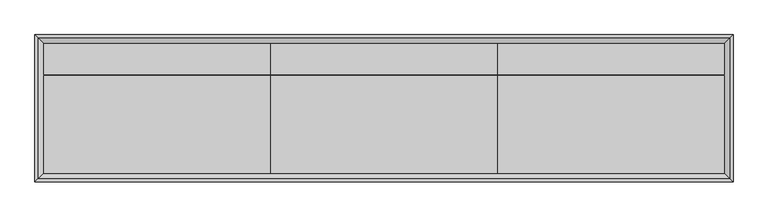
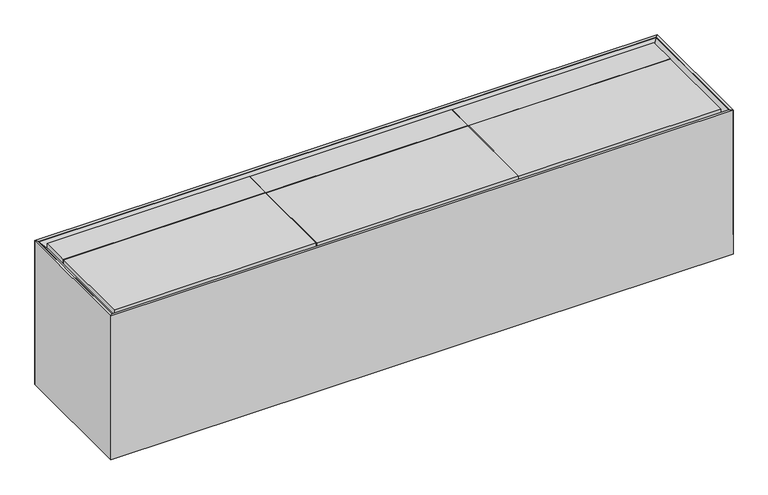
"""IFC4 building model written with IfcOpenShell, lengths in millimetres: proxy geometry, AERO^STANDARD CREDENZA_19H WH CREDENZA-NOTCHED CASE."""

from ifc_helpers import new_model, si_unit, frame, origin, place, context, project, spatial, polyline, outline, extrude, faceted_brep, source, transform, mapped, element, save


def generic_models_9f340892(model_context):
    return source(origin(), model_context, "Body", "SolidModel", [
        faceted_brep([(2286.0, 0.0, 76.2), (2044.7, 241.3, 76.2), (2286.0, 482.6, 76.2), (2286.0, 0.0, 558.8), (2276.475, 9.525, 558.8), (2276.475, 9.525, 557.2125), (2044.7, 241.3, 325.4375), (2276.475, 473.075, 558.8), (2276.475, 473.075, 557.2125), (2286.0, 482.6, 558.8)], [[[0, 1, 2]], [[3, 4, 5, 6, 1, 0]], [[7, 8, 5, 4]], [[6, 5, 8]], [[1, 6, 8, 7, 9, 2]], [[0, 2, 9, 3]], [[7, 4, 3, 9]]]),
        extrude(outline(polyline([(1513.68125, 28.575), (772.31875, 28.575), (772.31875, 349.25), (1513.68125, 349.25), (1513.68125, 28.575)])), frame((0.0, 0.0, 536.575), z_axis=(0.0, 0.0, 1.0), x_axis=(1.0, 0.0, 0.0)), (0.0, 0.0, 1.0), 19.05),
        extrude(outline(polyline([(1516.0625, 28.575), (1516.0625, 349.25), (2257.425, 349.25), (2257.425, 28.575), (1516.0625, 28.575)])), frame((0.0, 0.0, 536.575), z_axis=(0.0, 0.0, 1.0), x_axis=(1.0, 0.0, 0.0)), (0.0, 0.0, 1.0), 19.05),
        faceted_brep([(2247.9, 38.1, 0.0), (2286.0, 0.0, 0.0), (0.0, 0.0, 0.0), (38.1, 38.1, 0.0), (2286.0, 0.0, 558.8), (0.0, 0.0, 558.8), (2247.9, 38.1, 528.6375), (2276.475, 9.525, 557.2125), (2276.475, 9.525, 558.8), (9.525, 9.525, 557.2125), (9.525, 9.525, 558.8), (38.1, 38.1, 528.6375)], [[[0, 1, 2, 3]], [[2, 1, 4, 5]], [[1, 0, 6, 7, 8, 4]], [[8, 7, 9, 10]], [[7, 6, 11, 9]], [[0, 3, 11, 6]], [[9, 11, 3, 2, 5, 10]], [[8, 10, 5, 4]]]),
        extrude(outline(polyline([(1504.95, 444.5), (1524.0, 444.5), (1524.0, 38.1), (1504.95, 38.1), (1504.95, 444.5)])), frame((0.0, 0.0, 38.1), z_axis=(0.0, 0.0, 1.0), x_axis=(1.0, 0.0, 0.0)), (0.0, 0.0, 1.0), 488.95),
        extrude(outline(polyline([(2257.425, 351.63125), (1516.0625, 351.63125), (1516.0625, 454.025), (2257.425, 454.025), (2257.425, 351.63125)])), frame((0.0, 0.0, 536.575), z_axis=(0.0, 0.0, 1.0), x_axis=(1.0, 0.0, 0.0)), (0.0, 0.0, 1.0), 19.05),
        extrude(outline(polyline([(38.1, 444.5), (1524.0, 444.5), (1524.0, 38.1), (38.1, 38.1), (38.1, 444.5)])), frame((0.0, 0.0, 19.05), z_axis=(0.0, 0.0, 1.0), x_axis=(1.0, 0.0, 0.0)), (0.0, 0.0, 1.0), 19.05),
        faceted_brep([(0.0, 482.6, 0.0), (241.3, 241.3, 0.0), (0.0, 0.0, 0.0), (241.3, 241.3, 325.4375), (9.525, 9.525, 557.2125), (9.525, 9.525, 558.8), (0.0, 0.0, 558.8), (0.0, 482.6, 558.8), (9.525, 473.075, 558.8), (9.525, 473.075, 557.2125)], [[[0, 1, 2]], [[1, 3, 4, 5, 6, 2]], [[7, 8, 9, 3, 1, 0]], [[5, 4, 9, 8]], [[3, 9, 4]], [[0, 2, 6, 7]], [[5, 8, 7, 6]]]),
        extrude(outline(polyline([(769.9375, 454.025), (769.9375, 351.63125), (28.575, 351.63125), (28.575, 454.025), (769.9375, 454.025)])), frame((0.0, 0.0, 536.575), z_axis=(0.0, 0.0, 1.0), x_axis=(1.0, 0.0, 0.0)), (0.0, 0.0, 1.0), 19.05),
        faceted_brep([(2286.0, 482.6, 0.0), (2247.9, 444.5, 0.0), (38.1, 444.5, 0.0), (0.0, 482.6, 0.0), (2286.0, 482.6, 558.8), (0.0, 482.6, 558.8), (9.525, 473.075, 557.2125), (38.1, 444.5, 528.6375), (2247.9, 444.5, 528.6375), (2276.475, 473.075, 557.2125), (9.525, 473.075, 558.8), (2276.475, 473.075, 558.8)], [[[0, 1, 2, 3]], [[4, 0, 3, 5]], [[6, 7, 8, 9]], [[10, 6, 9, 11]], [[7, 6, 10, 5, 3, 2]], [[10, 11, 4, 5]], [[1, 8, 7, 2]], [[1, 0, 4, 11, 9, 8]]]),
        extrude(outline(polyline([(28.575, 349.25), (769.9375, 349.25), (769.9375, 28.575), (28.575, 28.575), (28.575, 349.25)])), frame((0.0, 0.0, 536.575), z_axis=(0.0, 0.0, 1.0), x_axis=(1.0, 0.0, 0.0)), (0.0, 0.0, 1.0), 19.05),
        extrude(outline(polyline([(762.0, 38.1), (762.0, 444.5), (781.05, 444.5), (781.05, 38.1), (762.0, 38.1)])), frame((0.0, 0.0, 38.1), z_axis=(0.0, 0.0, 1.0), x_axis=(1.0, 0.0, 0.0)), (0.0, 0.0, 1.0), 488.95),
        extrude(outline(polyline([(772.31875, 454.025), (1513.68125, 454.025), (1513.68125, 351.63125), (772.31875, 351.63125), (772.31875, 454.025)])), frame((0.0, 0.0, 536.575), z_axis=(0.0, 0.0, 1.0), x_axis=(1.0, 0.0, 0.0)), (0.0, 0.0, 1.0), 19.05),
        extrude(outline(polyline([(1524.0, 444.5), (2247.9, 444.5), (2247.9, 38.1), (1524.0, 38.1), (1524.0, 444.5)])), frame((0.0, 0.0, 95.25), z_axis=(0.0, 0.0, 1.0), x_axis=(1.0, 0.0, 0.0)), (0.0, 0.0, 1.0), 19.05),
    ])


if __name__ == "__main__":
    model = new_model("IFC4")
    model_context = context("Model", 3, world=origin())
    ifc_project = project(units=[si_unit("LENGTHUNIT", "METRE", prefix="MILLI")], contexts=[model_context])
    site = spatial("IfcSite", under=ifc_project)
    building = spatial("IfcBuilding", under=site)
    placement = place(None, origin())
    generic_models_shape = generic_models_9f340892(model_context)
    element("IfcBuildingElementProxy", 1, Name="AERO^STANDARD CREDENZA_19H WH CREDENZA-NOTCHED CASE", ObjectType="AERO^STANDARD CREDENZA_19H WH CREDENZA-NOTCHED CASE", at=placement, inside=building, context=model_context, shape_type="MappedRepresentation", body=[
        mapped(generic_models_shape, transform((0.0, 0.0, 0.0), x_axis=(1.0, 0.0, 0.0), y_axis=(0.0, 1.0, 0.0), z_axis=(0.0, 0.0, 1.0))),
    ])
    save(model, "model.ifc")
